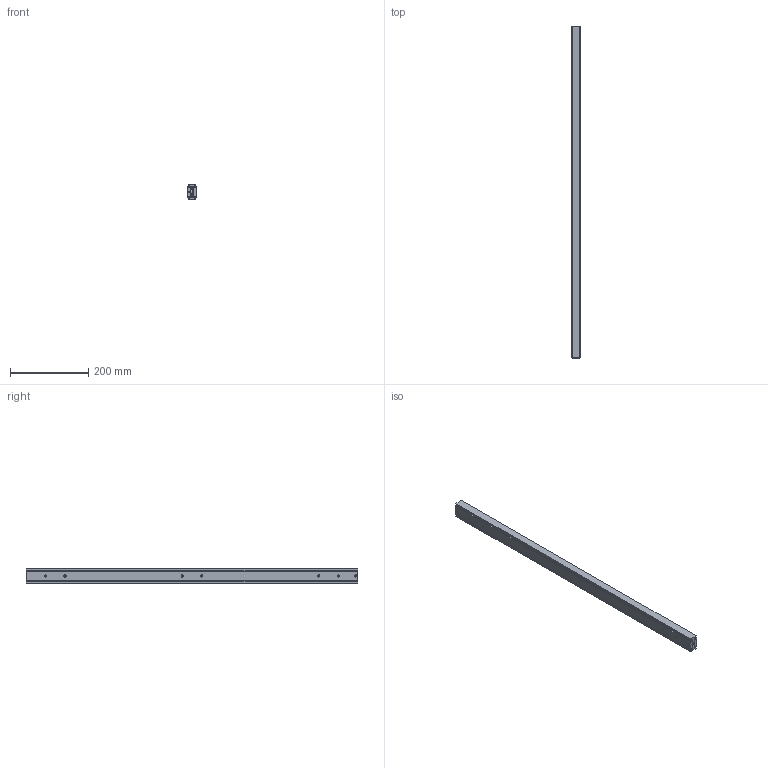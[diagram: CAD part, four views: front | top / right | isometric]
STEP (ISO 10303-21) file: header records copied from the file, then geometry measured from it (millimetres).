
FILE_DESCRIPTION(/* description */ (''),/* implementation_level */ '2;1');
FILE_NAME(/* name */ 'D:\Zeichnungen Schienen Komplett\MX-DTP40\MX-DTP40.085\MX-DTP40.085_eingefahren.step',/* time_stamp */ '2022-08-16T13:37:04+02:00',/* author */ ('zmile'),/* organization */ (''),/* preprocessor_version */ 'ST-DEVELOPER v16.13',/* originating_system */ 'AutoCAD Mechanical',/* authorisation */ '');
FILE_SCHEMA (('AUTOMOTIVE_DESIGN { 1 0 10303 214 3 1 1 }'));
Products named in the file (1): Product
Bounding box: 24 x 850 x 40 mm (x, y, z)
Volume: 645127.2 mm3; surface area: 322861.9 mm2
Topology: 71 solids, 71 shells, 296 faces, 822 edges, 544 vertices
Faces by surface type: cylinder 92, plane 84, sphere 64, bspline 50, torus 6
Full cylindrical faces by diameter (mm): 6 x64, 10 x2
Entity records: 98381 total; most frequent: CARTESIAN_POINT 91535, ORIENTED_EDGE 1240, DIRECTION 1220, EDGE_CURVE 620, VERTEX_POINT 542, EDGE_LOOP 528, AXIS2_PLACEMENT_3D 505, FACE_OUTER_BOUND 296
